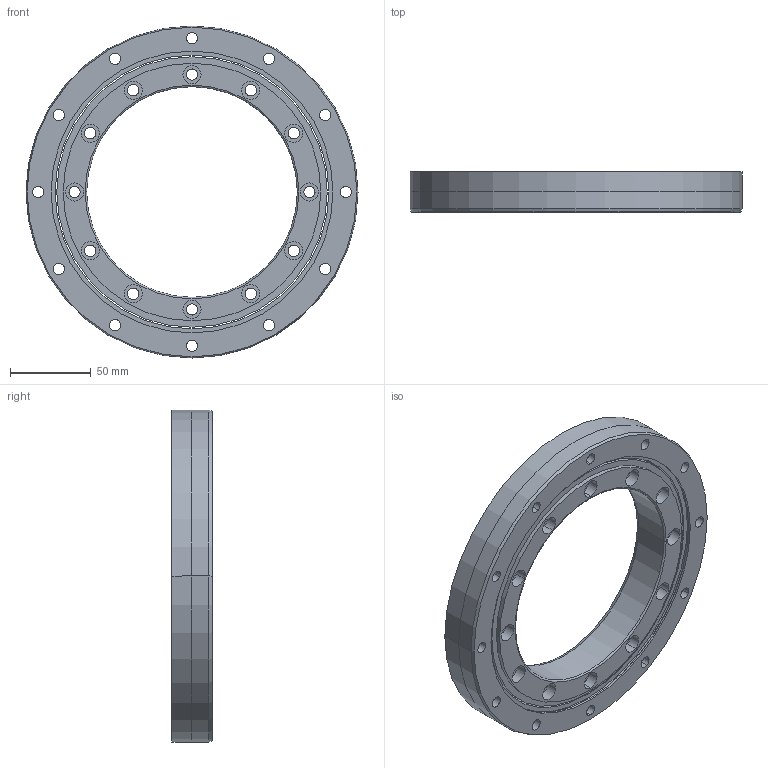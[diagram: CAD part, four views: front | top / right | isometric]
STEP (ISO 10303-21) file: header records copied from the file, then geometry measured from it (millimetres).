
FILE_DESCRIPTION((''),'2;1');
FILE_NAME('XSU080168','2016-01-29T',('Administrator'),(''),'PRO/ENGINEER BY PARAMETRIC TECHNOLOGY CORPORATION, 2010180','PRO/ENGINEER BY PARAMETRIC TECHNOLOGY CORPORATION, 2010180','');
FILE_SCHEMA(('AUTOMOTIVE_DESIGN_CC2 { 1 2 10303 214 -1 1 5 2 }'));
Length unit declared in the file: millimetre
Products named in the file (1): XSU080168
Bounding box: 205 x 24.8 x 205 mm (x, y, z)
Volume: 392184.1 mm3; surface area: 108823.1 mm2
Topology: 2 solids, 2 shells, 170 faces, 1287 edges, 1177 vertices
Faces by surface type: cylinder 122, plane 34, cone 12, torus 2
Entity records: 13426 total; most frequent: DIRECTION 1933, CARTESIAN_POINT 1734, VECTOR 1031, LINE 1031, PRESENTATION_STYLE_ASSIGNMENT 924, STYLED_ITEM 924, CURVE_STYLE 902, TRIMMED_CURVE 899
